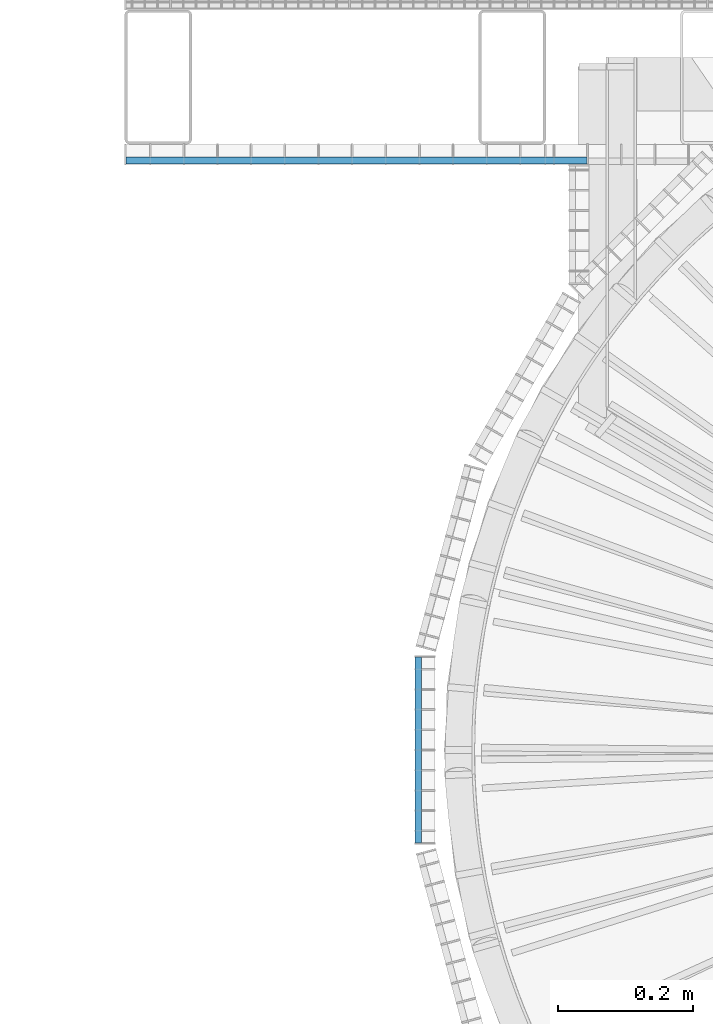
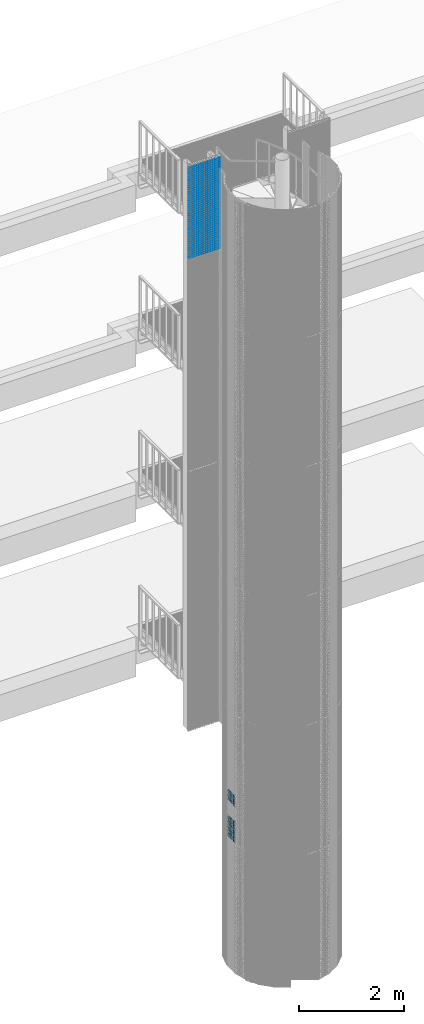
# One storey, part 212 of 1183: 69 beams, 2 elements without a shape of their own.
"""IFC2X3 building model written with IfcOpenShell, lengths in millimetres."""

from ifc_helpers import new_model, si_unit, frame, origin_with_axes, origin_2d_with_axis, place, context, subcontext, project, spatial, rectangle, extrude, material, type_object, element, aggregate, save


model = new_model("IFC2X3")

# Units and contexts
model_context = context("Model", 3, precision=1e-05, world=origin_with_axes())
body_context = subcontext(model_context, "Body", "Model", "MODEL_VIEW")
ifc_project = project(units=[si_unit("LENGTHUNIT", "METRE", prefix="MILLI"), si_unit("AREAUNIT", "SQUARE_METRE"), si_unit("VOLUMEUNIT", "CUBIC_METRE"), si_unit("MASSUNIT", "GRAM", prefix="KILO"), si_unit("TIMEUNIT", "SECOND"), si_unit("PLANEANGLEUNIT", "RADIAN"), si_unit("SOLIDANGLEUNIT", "STERADIAN"), si_unit("THERMODYNAMICTEMPERATUREUNIT", "DEGREE_CELSIUS"), si_unit("LUMINOUSINTENSITYUNIT", "LUMEN")], contexts=[model_context])

# Site, building, storey
site_placement = place(None, origin_with_axes())
site = spatial("IfcSite", under=ifc_project, at=site_placement, Name="Undefined", CompositionType="ELEMENT")
building_placement = place(site_placement, origin_with_axes())
building = spatial("IfcBuilding", under=site, at=building_placement, Name="Undefined", CompositionType="ELEMENT")
storey_placement = place(building_placement, origin_with_axes())
storey = spatial("IfcBuildingStorey", under=building, at=storey_placement, Name="Undefined", CompositionType="ELEMENT", Elevation=0.0)

# Assembly, beams
assembly_1_placement = place(storey_placement, origin_with_axes())
assembly_1 = element("IfcElementAssembly", 1, at=assembly_1_placement, inside=storey, Name="BORDURE", AssemblyPlace="NOTDEFINED", PredefinedType="NOTDEFINED")
ifc_material = material(Name="STEEL/S235JR")
beam_type = type_object("IfcBeamType", Name="PL2*10", PredefinedType="NOTDEFINED")
beam_1_placement = place(assembly_1_placement, frame((-1113.47999999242, 137.996003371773, 3510.0), z_axis=(-1.0, 0.0, 0.0), x_axis=(0.0, -1.0, 0.0)))
beam_1 = element("IfcBeam", 2, at=beam_1_placement, type_object=beam_type, material=ifc_material, Name="ENTRETOISE", context=body_context, shape_type="SweptSolid", body=[
    extrude(rectangle(XDim=2.0, YDim=10.0, at=origin_2d_with_axis()), frame((275.999999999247, 9.09494701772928e-13, 1.53210777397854e-14), z_axis=(-1.0, 0.0, 0.0), x_axis=(0.0, -1.0, 0.0)), (0.0, 0.0, 1.0), 276.0),
])
beam_2_placement = place(assembly_1_placement, frame((-1113.47999999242, 137.996003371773, 3480.0), z_axis=(-1.0, 0.0, 0.0), x_axis=(0.0, -1.0, 0.0)))
beam_2 = element("IfcBeam", 3, at=beam_2_placement, type_object=beam_type, material=ifc_material, Name="ENTRETOISE", context=body_context, shape_type="SweptSolid", body=[
    extrude(rectangle(XDim=2.0, YDim=10.0, at=origin_2d_with_axis()), frame((275.999999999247, 9.09494701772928e-13, 1.53210777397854e-14), z_axis=(-1.0, 0.0, 0.0), x_axis=(0.0, -1.0, 0.0)), (0.0, 0.0, 1.0), 276.0),
])
beam_3_placement = place(assembly_1_placement, frame((-1113.47999999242, 137.996003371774, 3870.0), z_axis=(-1.0, 0.0, 0.0), x_axis=(0.0, -1.0, 0.0)))
beam_3 = element("IfcBeam", 4, at=beam_3_placement, type_object=beam_type, material=ifc_material, Name="ENTRETOISE", context=body_context, shape_type="SweptSolid", body=[
    extrude(rectangle(XDim=2.0, YDim=10.0, at=origin_2d_with_axis()), frame((275.999999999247, 9.09494701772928e-13, 1.53210777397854e-14), z_axis=(-1.0, 0.0, 0.0), x_axis=(0.0, -1.0, 0.0)), (0.0, 0.0, 1.0), 276.0),
])
beam_4_placement = place(assembly_1_placement, frame((-1113.47999999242, 137.996003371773, 3450.0), z_axis=(-1.0, 0.0, 0.0), x_axis=(0.0, -1.0, 0.0)))
beam_4 = element("IfcBeam", 5, at=beam_4_placement, type_object=beam_type, material=ifc_material, Name="ENTRETOISE", context=body_context, shape_type="SweptSolid", body=[
    extrude(rectangle(XDim=2.0, YDim=10.0, at=origin_2d_with_axis()), frame((275.999999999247, 9.09494701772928e-13, 1.53210777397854e-14), z_axis=(-1.0, 0.0, 0.0), x_axis=(0.0, -1.0, 0.0)), (0.0, 0.0, 1.0), 276.0),
])
beam_5_placement = place(assembly_1_placement, frame((-1113.47999999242, 137.996003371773, 3420.0), z_axis=(-1.0, 0.0, 0.0), x_axis=(0.0, -1.0, 0.0)))
beam_5 = element("IfcBeam", 6, at=beam_5_placement, type_object=beam_type, material=ifc_material, Name="ENTRETOISE", context=body_context, shape_type="SweptSolid", body=[
    extrude(rectangle(XDim=2.0, YDim=10.0, at=origin_2d_with_axis()), frame((275.999999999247, 9.09494701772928e-13, 1.53210777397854e-14), z_axis=(-1.0, 0.0, 0.0), x_axis=(0.0, -1.0, 0.0)), (0.0, 0.0, 1.0), 276.0),
])
beam_6_placement = place(assembly_1_placement, frame((-1113.47999999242, 137.996003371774, 3900.0), z_axis=(-1.0, 0.0, 0.0), x_axis=(0.0, -1.0, 0.0)))
beam_6 = element("IfcBeam", 7, at=beam_6_placement, type_object=beam_type, material=ifc_material, Name="ENTRETOISE", context=body_context, shape_type="SweptSolid", body=[
    extrude(rectangle(XDim=2.0, YDim=10.0, at=origin_2d_with_axis()), frame((275.999999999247, 9.09494701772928e-13, 1.53210777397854e-14), z_axis=(-1.0, 0.0, 0.0), x_axis=(0.0, -1.0, 0.0)), (0.0, 0.0, 1.0), 276.0),
])
beam_7_placement = place(assembly_1_placement, frame((-1113.47999999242, 137.996003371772, 3390.0), z_axis=(-1.0, 0.0, 0.0), x_axis=(0.0, -1.0, 0.0)))
beam_7 = element("IfcBeam", 8, at=beam_7_placement, type_object=beam_type, material=ifc_material, Name="ENTRETOISE", context=body_context, shape_type="SweptSolid", body=[
    extrude(rectangle(XDim=2.0, YDim=10.0, at=origin_2d_with_axis()), frame((275.999999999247, 9.09494701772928e-13, 1.53210777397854e-14), z_axis=(-1.0, 0.0, 0.0), x_axis=(0.0, -1.0, 0.0)), (0.0, 0.0, 1.0), 276.0),
])
beam_8_placement = place(assembly_1_placement, frame((-1113.47999999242, 137.996003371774, 3930.0), z_axis=(-1.0, 0.0, 0.0), x_axis=(0.0, -1.0, 0.0)))
beam_8 = element("IfcBeam", 9, at=beam_8_placement, type_object=beam_type, material=ifc_material, Name="ENTRETOISE", context=body_context, shape_type="SweptSolid", body=[
    extrude(rectangle(XDim=2.0, YDim=10.0, at=origin_2d_with_axis()), frame((275.999999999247, 9.09494701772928e-13, 1.53210777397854e-14), z_axis=(-1.0, 0.0, 0.0), x_axis=(0.0, -1.0, 0.0)), (0.0, 0.0, 1.0), 276.0),
])
beam_9_placement = place(assembly_1_placement, frame((-1113.47999999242, 137.996003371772, 3360.0), z_axis=(-1.0, 0.0, 0.0), x_axis=(0.0, -1.0, 0.0)))
beam_9 = element("IfcBeam", 10, at=beam_9_placement, type_object=beam_type, material=ifc_material, Name="ENTRETOISE", context=body_context, shape_type="SweptSolid", body=[
    extrude(rectangle(XDim=2.0, YDim=10.0, at=origin_2d_with_axis()), frame((275.999999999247, 9.09494701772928e-13, 1.53210777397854e-14), z_axis=(-1.0, 0.0, 0.0), x_axis=(0.0, -1.0, 0.0)), (0.0, 0.0, 1.0), 276.0),
])
beam_10_placement = place(assembly_1_placement, frame((-1113.47999999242, 137.996003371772, 3330.0), z_axis=(-1.0, 0.0, 0.0), x_axis=(0.0, -1.0, 0.0)))
beam_10 = element("IfcBeam", 11, at=beam_10_placement, type_object=beam_type, material=ifc_material, Name="ENTRETOISE", context=body_context, shape_type="SweptSolid", body=[
    extrude(rectangle(XDim=2.0, YDim=10.0, at=origin_2d_with_axis()), frame((275.999999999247, 9.09494701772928e-13, 1.53210777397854e-14), z_axis=(-1.0, 0.0, 0.0), x_axis=(0.0, -1.0, 0.0)), (0.0, 0.0, 1.0), 276.0),
])
beam_11_placement = place(assembly_1_placement, frame((-1113.47999999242, 137.996003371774, 3960.0), z_axis=(-1.0, 0.0, 0.0), x_axis=(0.0, -1.0, 0.0)))
beam_11 = element("IfcBeam", 12, at=beam_11_placement, type_object=beam_type, material=ifc_material, Name="ENTRETOISE", context=body_context, shape_type="SweptSolid", body=[
    extrude(rectangle(XDim=2.0, YDim=10.0, at=origin_2d_with_axis()), frame((275.999999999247, 9.09494701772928e-13, 1.53210777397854e-14), z_axis=(-1.0, 0.0, 0.0), x_axis=(0.0, -1.0, 0.0)), (0.0, 0.0, 1.0), 276.0),
])
beam_12_placement = place(assembly_1_placement, frame((-1113.47999999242, 137.996003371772, 3300.0), z_axis=(-1.0, 0.0, 0.0), x_axis=(0.0, -1.0, 0.0)))
beam_12 = element("IfcBeam", 13, at=beam_12_placement, type_object=beam_type, material=ifc_material, Name="ENTRETOISE", context=body_context, shape_type="SweptSolid", body=[
    extrude(rectangle(XDim=2.0, YDim=10.0, at=origin_2d_with_axis()), frame((275.999999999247, 9.09494701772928e-13, 1.53210777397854e-14), z_axis=(-1.0, 0.0, 0.0), x_axis=(0.0, -1.0, 0.0)), (0.0, 0.0, 1.0), 276.0),
])
beam_13_placement = place(assembly_1_placement, frame((-1113.47999999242, 137.996003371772, 3270.0), z_axis=(-1.0, 0.0, 0.0), x_axis=(0.0, -1.0, 0.0)))
beam_13 = element("IfcBeam", 14, at=beam_13_placement, type_object=beam_type, material=ifc_material, Name="ENTRETOISE", context=body_context, shape_type="SweptSolid", body=[
    extrude(rectangle(XDim=2.0, YDim=10.0, at=origin_2d_with_axis()), frame((275.999999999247, 9.09494701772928e-13, 1.53210777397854e-14), z_axis=(-1.0, 0.0, 0.0), x_axis=(0.0, -1.0, 0.0)), (0.0, 0.0, 1.0), 276.0),
])
beam_14_placement = place(assembly_1_placement, frame((-1113.47999999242, 137.996003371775, 3990.0), z_axis=(-1.0, 0.0, 0.0), x_axis=(0.0, -1.0, 0.0)))
beam_14 = element("IfcBeam", 15, at=beam_14_placement, type_object=beam_type, material=ifc_material, Name="ENTRETOISE", context=body_context, shape_type="SweptSolid", body=[
    extrude(rectangle(XDim=2.0, YDim=10.0, at=origin_2d_with_axis()), frame((275.999999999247, 9.09494701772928e-13, 1.53210777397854e-14), z_axis=(-1.0, 0.0, 0.0), x_axis=(0.0, -1.0, 0.0)), (0.0, 0.0, 1.0), 276.0),
])
beam_15_placement = place(assembly_1_placement, frame((-1113.47999999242, 137.996003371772, 3240.0), z_axis=(-1.0, 0.0, 0.0), x_axis=(0.0, -1.0, 0.0)))
beam_15 = element("IfcBeam", 16, at=beam_15_placement, type_object=beam_type, material=ifc_material, Name="ENTRETOISE", context=body_context, shape_type="SweptSolid", body=[
    extrude(rectangle(XDim=2.0, YDim=10.0, at=origin_2d_with_axis()), frame((275.999999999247, 9.09494701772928e-13, 1.53210777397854e-14), z_axis=(-1.0, 0.0, 0.0), x_axis=(0.0, -1.0, 0.0)), (0.0, 0.0, 1.0), 276.0),
])
beam_16_placement = place(assembly_1_placement, frame((-1113.47999999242, 137.996003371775, 4020.0), z_axis=(-1.0, 0.0, 0.0), x_axis=(0.0, -1.0, 0.0)))
beam_16 = element("IfcBeam", 17, at=beam_16_placement, type_object=beam_type, material=ifc_material, Name="ENTRETOISE", context=body_context, shape_type="SweptSolid", body=[
    extrude(rectangle(XDim=2.0, YDim=10.0, at=origin_2d_with_axis()), frame((275.999999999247, 9.09494701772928e-13, 1.53210777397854e-14), z_axis=(-1.0, 0.0, 0.0), x_axis=(0.0, -1.0, 0.0)), (0.0, 0.0, 1.0), 276.0),
])
beam_17_placement = place(assembly_1_placement, frame((-1113.47999999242, 137.996003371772, 3210.0), z_axis=(-1.0, 0.0, 0.0), x_axis=(0.0, -1.0, 0.0)))
beam_17 = element("IfcBeam", 18, at=beam_17_placement, type_object=beam_type, material=ifc_material, Name="ENTRETOISE", context=body_context, shape_type="SweptSolid", body=[
    extrude(rectangle(XDim=2.0, YDim=10.0, at=origin_2d_with_axis()), frame((275.999999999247, 9.09494701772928e-13, 1.53210777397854e-14), z_axis=(-1.0, 0.0, 0.0), x_axis=(0.0, -1.0, 0.0)), (0.0, 0.0, 1.0), 276.0),
])
beam_18_placement = place(assembly_1_placement, frame((-1113.47999999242, 137.996003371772, 3180.0), z_axis=(-1.0, 0.0, 0.0), x_axis=(0.0, -1.0, 0.0)))
beam_18 = element("IfcBeam", 19, at=beam_18_placement, type_object=beam_type, material=ifc_material, Name="ENTRETOISE", context=body_context, shape_type="SweptSolid", body=[
    extrude(rectangle(XDim=2.0, YDim=10.0, at=origin_2d_with_axis()), frame((275.999999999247, 9.09494701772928e-13, 1.53210777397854e-14), z_axis=(-1.0, 0.0, 0.0), x_axis=(0.0, -1.0, 0.0)), (0.0, 0.0, 1.0), 276.0),
])
beam_19_placement = place(assembly_1_placement, frame((-1113.47999999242, 137.996003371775, 4050.0), z_axis=(-1.0, 0.0, 0.0), x_axis=(0.0, -1.0, 0.0)))
beam_19 = element("IfcBeam", 20, at=beam_19_placement, type_object=beam_type, material=ifc_material, Name="ENTRETOISE", context=body_context, shape_type="SweptSolid", body=[
    extrude(rectangle(XDim=2.0, YDim=10.0, at=origin_2d_with_axis()), frame((275.999999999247, 9.09494701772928e-13, 1.53210777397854e-14), z_axis=(-1.0, 0.0, 0.0), x_axis=(0.0, -1.0, 0.0)), (0.0, 0.0, 1.0), 276.0),
])
beam_20_placement = place(assembly_1_placement, frame((-1113.47999999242, 137.996003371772, 3150.0), z_axis=(-1.0, 0.0, 0.0), x_axis=(0.0, -1.0, 0.0)))
beam_20 = element("IfcBeam", 21, at=beam_20_placement, type_object=beam_type, material=ifc_material, Name="ENTRETOISE", context=body_context, shape_type="SweptSolid", body=[
    extrude(rectangle(XDim=2.0, YDim=10.0, at=origin_2d_with_axis()), frame((275.999999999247, 9.09494701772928e-13, 1.53210777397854e-14), z_axis=(-1.0, 0.0, 0.0), x_axis=(0.0, -1.0, 0.0)), (0.0, 0.0, 1.0), 276.0),
])
beam_21_placement = place(assembly_1_placement, frame((-1113.47999999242, 137.996003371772, 3120.0), z_axis=(-1.0, 0.0, 0.0), x_axis=(0.0, -1.0, 0.0)))
beam_21 = element("IfcBeam", 22, at=beam_21_placement, type_object=beam_type, material=ifc_material, Name="ENTRETOISE", context=body_context, shape_type="SweptSolid", body=[
    extrude(rectangle(XDim=2.0, YDim=10.0, at=origin_2d_with_axis()), frame((275.999999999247, 9.09494701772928e-13, 1.53210777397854e-14), z_axis=(-1.0, 0.0, 0.0), x_axis=(0.0, -1.0, 0.0)), (0.0, 0.0, 1.0), 276.0),
])
beam_22_placement = place(assembly_1_placement, frame((-1113.47999999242, 137.996003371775, 4080.0), z_axis=(-1.0, 0.0, 0.0), x_axis=(0.0, -1.0, 0.0)))
beam_22 = element("IfcBeam", 23, at=beam_22_placement, type_object=beam_type, material=ifc_material, Name="ENTRETOISE", context=body_context, shape_type="SweptSolid", body=[
    extrude(rectangle(XDim=2.0, YDim=10.0, at=origin_2d_with_axis()), frame((275.999999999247, 9.09494701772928e-13, 1.53210777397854e-14), z_axis=(-1.0, 0.0, 0.0), x_axis=(0.0, -1.0, 0.0)), (0.0, 0.0, 1.0), 276.0),
])
beam_23_placement = place(assembly_1_placement, frame((-1113.47999999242, 137.996003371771, 3090.0), z_axis=(-1.0, 0.0, 0.0), x_axis=(0.0, -1.0, 0.0)))
beam_23 = element("IfcBeam", 24, at=beam_23_placement, type_object=beam_type, material=ifc_material, Name="ENTRETOISE", context=body_context, shape_type="SweptSolid", body=[
    extrude(rectangle(XDim=2.0, YDim=10.0, at=origin_2d_with_axis()), frame((275.999999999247, 9.09494701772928e-13, 1.53210777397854e-14), z_axis=(-1.0, 0.0, 0.0), x_axis=(0.0, -1.0, 0.0)), (0.0, 0.0, 1.0), 276.0),
])
beam_24_placement = place(assembly_1_placement, frame((-1113.47999999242, 137.996003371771, 3060.0), z_axis=(-1.0, 0.0, 0.0), x_axis=(0.0, -1.0, 0.0)))
beam_24 = element("IfcBeam", 25, at=beam_24_placement, type_object=beam_type, material=ifc_material, Name="ENTRETOISE", context=body_context, shape_type="SweptSolid", body=[
    extrude(rectangle(XDim=2.0, YDim=10.0, at=origin_2d_with_axis()), frame((275.999999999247, 9.09494701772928e-13, 1.53210777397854e-14), z_axis=(-1.0, 0.0, 0.0), x_axis=(0.0, -1.0, 0.0)), (0.0, 0.0, 1.0), 276.0),
])
beam_25_placement = place(assembly_1_placement, frame((-1113.47999999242, 137.996003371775, 4110.0), z_axis=(-1.0, 0.0, 0.0), x_axis=(0.0, -1.0, 0.0)))
beam_25 = element("IfcBeam", 26, at=beam_25_placement, type_object=beam_type, material=ifc_material, Name="ENTRETOISE", context=body_context, shape_type="SweptSolid", body=[
    extrude(rectangle(XDim=2.0, YDim=10.0, at=origin_2d_with_axis()), frame((275.999999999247, 9.09494701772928e-13, 1.53210777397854e-14), z_axis=(-1.0, 0.0, 0.0), x_axis=(0.0, -1.0, 0.0)), (0.0, 0.0, 1.0), 276.0),
])
beam_26_placement = place(assembly_1_placement, frame((-1113.47999999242, 137.99600337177, 3030.0), z_axis=(-1.0, 0.0, 0.0), x_axis=(0.0, -1.0, 0.0)))
beam_26 = element("IfcBeam", 27, at=beam_26_placement, type_object=beam_type, material=ifc_material, Name="ENTRETOISE", context=body_context, shape_type="SweptSolid", body=[
    extrude(rectangle(XDim=2.0, YDim=10.0, at=origin_2d_with_axis()), frame((275.999999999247, 9.09494701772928e-13, 1.53210777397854e-14), z_axis=(-1.0, 0.0, 0.0), x_axis=(0.0, -1.0, 0.0)), (0.0, 0.0, 1.0), 276.0),
])
aggregate(assembly_1, [beam_1, beam_2, beam_3, beam_4, beam_5, beam_6, beam_7, beam_8, beam_9, beam_10, beam_11, beam_12, beam_13, beam_14, beam_15, beam_16, beam_17, beam_18, beam_19, beam_20, beam_21, beam_22, beam_23, beam_24, beam_25, beam_26])

assembly_2_placement = place(storey_placement, origin_with_axes())
assembly_2 = element("IfcElementAssembly", 28, at=assembly_2_placement, inside=storey, Name="BORDURE", AssemblyPlace="NOTDEFINED", PredefinedType="NOTDEFINED")
beam_27_placement = place(assembly_2_placement, frame((-1547.92041016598, 875.994689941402, 18239.998), z_axis=(0.0, -1.0, 0.0), x_axis=(1.0, 0.0, 0.0)))
beam_27 = element("IfcBeam", 29, at=beam_27_placement, type_object=beam_type, material=ifc_material, Name="ENTRETOISE", context=body_context, shape_type="SweptSolid", body=[
    extrude(rectangle(XDim=2.0, YDim=10.0, at=origin_2d_with_axis()), frame((685.0, 0.0, 0.0), z_axis=(-1.0, 0.0, 0.0), x_axis=(0.0, -1.0, 0.0)), (0.0, 0.0, 1.0), 685.0),
])
beam_28_placement = place(assembly_2_placement, frame((-1547.92041016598, 875.994689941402, 18189.998), z_axis=(0.0, -1.0, 0.0), x_axis=(1.0, 0.0, 0.0)))
beam_28 = element("IfcBeam", 30, at=beam_28_placement, type_object=beam_type, material=ifc_material, Name="ENTRETOISE", context=body_context, shape_type="SweptSolid", body=[
    extrude(rectangle(XDim=2.0, YDim=10.0, at=origin_2d_with_axis()), frame((685.0, 0.0, 0.0), z_axis=(-1.0, 0.0, 0.0), x_axis=(0.0, -1.0, 0.0)), (0.0, 0.0, 1.0), 685.0),
])
beam_29_placement = place(assembly_2_placement, frame((-1547.92041016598, 875.994689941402, 18139.998), z_axis=(0.0, -1.0, 0.0), x_axis=(1.0, 0.0, 0.0)))
beam_29 = element("IfcBeam", 31, at=beam_29_placement, type_object=beam_type, material=ifc_material, Name="ENTRETOISE", context=body_context, shape_type="SweptSolid", body=[
    extrude(rectangle(XDim=2.0, YDim=10.0, at=origin_2d_with_axis()), frame((685.0, 0.0, 0.0), z_axis=(-1.0, 0.0, 0.0), x_axis=(0.0, -1.0, 0.0)), (0.0, 0.0, 1.0), 685.0),
])
beam_30_placement = place(assembly_2_placement, frame((-1547.92041016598, 875.994689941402, 18089.998), z_axis=(0.0, -1.0, 0.0), x_axis=(1.0, 0.0, 0.0)))
beam_30 = element("IfcBeam", 32, at=beam_30_placement, type_object=beam_type, material=ifc_material, Name="ENTRETOISE", context=body_context, shape_type="SweptSolid", body=[
    extrude(rectangle(XDim=2.0, YDim=10.0, at=origin_2d_with_axis()), frame((685.0, 0.0, 0.0), z_axis=(-1.0, 0.0, 0.0), x_axis=(0.0, -1.0, 0.0)), (0.0, 0.0, 1.0), 685.0),
])
beam_31_placement = place(assembly_2_placement, frame((-1547.92041016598, 875.994689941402, 18039.998), z_axis=(0.0, -1.0, 0.0), x_axis=(1.0, 0.0, 0.0)))
beam_31 = element("IfcBeam", 33, at=beam_31_placement, type_object=beam_type, material=ifc_material, Name="ENTRETOISE", context=body_context, shape_type="SweptSolid", body=[
    extrude(rectangle(XDim=2.0, YDim=10.0, at=origin_2d_with_axis()), frame((685.0, 0.0, 0.0), z_axis=(-1.0, 0.0, 0.0), x_axis=(0.0, -1.0, 0.0)), (0.0, 0.0, 1.0), 685.0),
])
beam_32_placement = place(assembly_2_placement, frame((-1547.92041016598, 875.994689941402, 17989.998), z_axis=(0.0, -1.0, 0.0), x_axis=(1.0, 0.0, 0.0)))
beam_32 = element("IfcBeam", 34, at=beam_32_placement, type_object=beam_type, material=ifc_material, Name="ENTRETOISE", context=body_context, shape_type="SweptSolid", body=[
    extrude(rectangle(XDim=2.0, YDim=10.0, at=origin_2d_with_axis()), frame((685.0, 0.0, 0.0), z_axis=(-1.0, 0.0, 0.0), x_axis=(0.0, -1.0, 0.0)), (0.0, 0.0, 1.0), 685.0),
])
beam_33_placement = place(assembly_2_placement, frame((-1547.92041016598, 875.994689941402, 17939.998), z_axis=(0.0, -1.0, 0.0), x_axis=(1.0, 0.0, 0.0)))
beam_33 = element("IfcBeam", 35, at=beam_33_placement, type_object=beam_type, material=ifc_material, Name="ENTRETOISE", context=body_context, shape_type="SweptSolid", body=[
    extrude(rectangle(XDim=2.0, YDim=10.0, at=origin_2d_with_axis()), frame((685.0, 0.0, 0.0), z_axis=(-1.0, 0.0, 0.0), x_axis=(0.0, -1.0, 0.0)), (0.0, 0.0, 1.0), 685.0),
])
beam_34_placement = place(assembly_2_placement, frame((-1547.92041016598, 875.994689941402, 17889.998), z_axis=(0.0, -1.0, 0.0), x_axis=(1.0, 0.0, 0.0)))
beam_34 = element("IfcBeam", 36, at=beam_34_placement, type_object=beam_type, material=ifc_material, Name="ENTRETOISE", context=body_context, shape_type="SweptSolid", body=[
    extrude(rectangle(XDim=2.0, YDim=10.0, at=origin_2d_with_axis()), frame((685.0, 0.0, 0.0), z_axis=(-1.0, 0.0, 0.0), x_axis=(0.0, -1.0, 0.0)), (0.0, 0.0, 1.0), 685.0),
])
beam_35_placement = place(assembly_2_placement, frame((-1547.92041016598, 875.994689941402, 17839.998), z_axis=(0.0, -1.0, 0.0), x_axis=(1.0, 0.0, 0.0)))
beam_35 = element("IfcBeam", 37, at=beam_35_placement, type_object=beam_type, material=ifc_material, Name="ENTRETOISE", context=body_context, shape_type="SweptSolid", body=[
    extrude(rectangle(XDim=2.0, YDim=10.0, at=origin_2d_with_axis()), frame((685.0, 0.0, 0.0), z_axis=(-1.0, 0.0, 0.0), x_axis=(0.0, -1.0, 0.0)), (0.0, 0.0, 1.0), 685.0),
])
beam_36_placement = place(assembly_2_placement, frame((-1547.92041016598, 875.994689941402, 17789.998), z_axis=(0.0, -1.0, 0.0), x_axis=(1.0, 0.0, 0.0)))
beam_36 = element("IfcBeam", 38, at=beam_36_placement, type_object=beam_type, material=ifc_material, Name="ENTRETOISE", context=body_context, shape_type="SweptSolid", body=[
    extrude(rectangle(XDim=2.0, YDim=10.0, at=origin_2d_with_axis()), frame((685.0, 0.0, 0.0), z_axis=(-1.0, 0.0, 0.0), x_axis=(0.0, -1.0, 0.0)), (0.0, 0.0, 1.0), 685.0),
])
beam_37_placement = place(assembly_2_placement, frame((-1547.92041016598, 875.994689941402, 17739.998), z_axis=(0.0, -1.0, 0.0), x_axis=(1.0, 0.0, 0.0)))
beam_37 = element("IfcBeam", 39, at=beam_37_placement, type_object=beam_type, material=ifc_material, Name="ENTRETOISE", context=body_context, shape_type="SweptSolid", body=[
    extrude(rectangle(XDim=2.0, YDim=10.0, at=origin_2d_with_axis()), frame((685.0, 0.0, 0.0), z_axis=(-1.0, 0.0, 0.0), x_axis=(0.0, -1.0, 0.0)), (0.0, 0.0, 1.0), 685.0),
])
beam_38_placement = place(assembly_2_placement, frame((-1547.92041016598, 875.994689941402, 17689.998), z_axis=(0.0, -1.0, 0.0), x_axis=(1.0, 0.0, 0.0)))
beam_38 = element("IfcBeam", 40, at=beam_38_placement, type_object=beam_type, material=ifc_material, Name="ENTRETOISE", context=body_context, shape_type="SweptSolid", body=[
    extrude(rectangle(XDim=2.0, YDim=10.0, at=origin_2d_with_axis()), frame((685.0, 0.0, 0.0), z_axis=(-1.0, 0.0, 0.0), x_axis=(0.0, -1.0, 0.0)), (0.0, 0.0, 1.0), 685.0),
])
beam_39_placement = place(assembly_2_placement, frame((-1547.92041016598, 875.994689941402, 17639.998), z_axis=(0.0, -1.0, 0.0), x_axis=(1.0, 0.0, 0.0)))
beam_39 = element("IfcBeam", 41, at=beam_39_placement, type_object=beam_type, material=ifc_material, Name="ENTRETOISE", context=body_context, shape_type="SweptSolid", body=[
    extrude(rectangle(XDim=2.0, YDim=10.0, at=origin_2d_with_axis()), frame((685.0, 0.0, 0.0), z_axis=(-1.0, 0.0, 0.0), x_axis=(0.0, -1.0, 0.0)), (0.0, 0.0, 1.0), 685.0),
])
beam_40_placement = place(assembly_2_placement, frame((-1547.92041016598, 875.994689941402, 17589.998), z_axis=(0.0, -1.0, 0.0), x_axis=(1.0, 0.0, 0.0)))
beam_40 = element("IfcBeam", 42, at=beam_40_placement, type_object=beam_type, material=ifc_material, Name="ENTRETOISE", context=body_context, shape_type="SweptSolid", body=[
    extrude(rectangle(XDim=2.0, YDim=10.0, at=origin_2d_with_axis()), frame((685.0, 0.0, 0.0), z_axis=(-1.0, 0.0, 0.0), x_axis=(0.0, -1.0, 0.0)), (0.0, 0.0, 1.0), 685.0),
])
beam_41_placement = place(assembly_2_placement, frame((-1547.92041016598, 875.994689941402, 17539.998), z_axis=(0.0, -1.0, 0.0), x_axis=(1.0, 0.0, 0.0)))
beam_41 = element("IfcBeam", 43, at=beam_41_placement, type_object=beam_type, material=ifc_material, Name="ENTRETOISE", context=body_context, shape_type="SweptSolid", body=[
    extrude(rectangle(XDim=2.0, YDim=10.0, at=origin_2d_with_axis()), frame((685.0, 0.0, 0.0), z_axis=(-1.0, 0.0, 0.0), x_axis=(0.0, -1.0, 0.0)), (0.0, 0.0, 1.0), 685.0),
])
beam_42_placement = place(assembly_2_placement, frame((-1547.92041016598, 875.994689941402, 17489.998), z_axis=(0.0, -1.0, 0.0), x_axis=(1.0, 0.0, 0.0)))
beam_42 = element("IfcBeam", 44, at=beam_42_placement, type_object=beam_type, material=ifc_material, Name="ENTRETOISE", context=body_context, shape_type="SweptSolid", body=[
    extrude(rectangle(XDim=2.0, YDim=10.0, at=origin_2d_with_axis()), frame((685.0, 0.0, 0.0), z_axis=(-1.0, 0.0, 0.0), x_axis=(0.0, -1.0, 0.0)), (0.0, 0.0, 1.0), 685.0),
])
beam_43_placement = place(assembly_2_placement, frame((-1547.92041016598, 875.994689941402, 17439.998), z_axis=(0.0, -1.0, 0.0), x_axis=(1.0, 0.0, 0.0)))
beam_43 = element("IfcBeam", 45, at=beam_43_placement, type_object=beam_type, material=ifc_material, Name="ENTRETOISE", context=body_context, shape_type="SweptSolid", body=[
    extrude(rectangle(XDim=2.0, YDim=10.0, at=origin_2d_with_axis()), frame((685.0, 0.0, 0.0), z_axis=(-1.0, 0.0, 0.0), x_axis=(0.0, -1.0, 0.0)), (0.0, 0.0, 1.0), 685.0),
])
beam_44_placement = place(assembly_2_placement, frame((-1547.92041016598, 875.994689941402, 17389.998), z_axis=(0.0, -1.0, 0.0), x_axis=(1.0, 0.0, 0.0)))
beam_44 = element("IfcBeam", 46, at=beam_44_placement, type_object=beam_type, material=ifc_material, Name="ENTRETOISE", context=body_context, shape_type="SweptSolid", body=[
    extrude(rectangle(XDim=2.0, YDim=10.0, at=origin_2d_with_axis()), frame((685.0, 0.0, 0.0), z_axis=(-1.0, 0.0, 0.0), x_axis=(0.0, -1.0, 0.0)), (0.0, 0.0, 1.0), 685.0),
])
beam_45_placement = place(assembly_2_placement, frame((-1547.92041016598, 875.994689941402, 17339.998), z_axis=(0.0, -1.0, 0.0), x_axis=(1.0, 0.0, 0.0)))
beam_45 = element("IfcBeam", 47, at=beam_45_placement, type_object=beam_type, material=ifc_material, Name="ENTRETOISE", context=body_context, shape_type="SweptSolid", body=[
    extrude(rectangle(XDim=2.0, YDim=10.0, at=origin_2d_with_axis()), frame((685.0, 0.0, 0.0), z_axis=(-1.0, 0.0, 0.0), x_axis=(0.0, -1.0, 0.0)), (0.0, 0.0, 1.0), 685.0),
])
beam_46_placement = place(assembly_2_placement, frame((-1547.92041016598, 875.994689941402, 17289.998), z_axis=(0.0, -1.0, 0.0), x_axis=(1.0, 0.0, 0.0)))
beam_46 = element("IfcBeam", 48, at=beam_46_placement, type_object=beam_type, material=ifc_material, Name="ENTRETOISE", context=body_context, shape_type="SweptSolid", body=[
    extrude(rectangle(XDim=2.0, YDim=10.0, at=origin_2d_with_axis()), frame((685.0, 0.0, 0.0), z_axis=(-1.0, 0.0, 0.0), x_axis=(0.0, -1.0, 0.0)), (0.0, 0.0, 1.0), 685.0),
])
beam_47_placement = place(assembly_2_placement, frame((-1547.92041016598, 875.994689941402, 17239.998), z_axis=(0.0, -1.0, 0.0), x_axis=(1.0, 0.0, 0.0)))
beam_47 = element("IfcBeam", 49, at=beam_47_placement, type_object=beam_type, material=ifc_material, Name="ENTRETOISE", context=body_context, shape_type="SweptSolid", body=[
    extrude(rectangle(XDim=2.0, YDim=10.0, at=origin_2d_with_axis()), frame((685.0, 0.0, 0.0), z_axis=(-1.0, 0.0, 0.0), x_axis=(0.0, -1.0, 0.0)), (0.0, 0.0, 1.0), 685.0),
])
beam_48_placement = place(assembly_2_placement, frame((-1547.92041016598, 875.994689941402, 17189.998), z_axis=(0.0, -1.0, 0.0), x_axis=(1.0, 0.0, 0.0)))
beam_48 = element("IfcBeam", 50, at=beam_48_placement, type_object=beam_type, material=ifc_material, Name="ENTRETOISE", context=body_context, shape_type="SweptSolid", body=[
    extrude(rectangle(XDim=2.0, YDim=10.0, at=origin_2d_with_axis()), frame((685.0, 0.0, 0.0), z_axis=(-1.0, 0.0, 0.0), x_axis=(0.0, -1.0, 0.0)), (0.0, 0.0, 1.0), 685.0),
])
beam_49_placement = place(assembly_2_placement, frame((-1547.92041016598, 875.994689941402, 17139.998), z_axis=(0.0, -1.0, 0.0), x_axis=(1.0, 0.0, 0.0)))
beam_49 = element("IfcBeam", 51, at=beam_49_placement, type_object=beam_type, material=ifc_material, Name="ENTRETOISE", context=body_context, shape_type="SweptSolid", body=[
    extrude(rectangle(XDim=2.0, YDim=10.0, at=origin_2d_with_axis()), frame((685.0, 0.0, 0.0), z_axis=(-1.0, 0.0, 0.0), x_axis=(0.0, -1.0, 0.0)), (0.0, 0.0, 1.0), 685.0),
])
beam_50_placement = place(assembly_2_placement, frame((-1547.92041016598, 875.994689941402, 17089.998), z_axis=(0.0, -1.0, 0.0), x_axis=(1.0, 0.0, 0.0)))
beam_50 = element("IfcBeam", 52, at=beam_50_placement, type_object=beam_type, material=ifc_material, Name="ENTRETOISE", context=body_context, shape_type="SweptSolid", body=[
    extrude(rectangle(XDim=2.0, YDim=10.0, at=origin_2d_with_axis()), frame((685.0, 0.0, 0.0), z_axis=(-1.0, 0.0, 0.0), x_axis=(0.0, -1.0, 0.0)), (0.0, 0.0, 1.0), 685.0),
])
beam_51_placement = place(assembly_2_placement, frame((-1547.92041016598, 875.994689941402, 17039.998), z_axis=(0.0, -1.0, 0.0), x_axis=(1.0, 0.0, 0.0)))
beam_51 = element("IfcBeam", 53, at=beam_51_placement, type_object=beam_type, material=ifc_material, Name="ENTRETOISE", context=body_context, shape_type="SweptSolid", body=[
    extrude(rectangle(XDim=2.0, YDim=10.0, at=origin_2d_with_axis()), frame((685.0, 0.0, 0.0), z_axis=(-1.0, 0.0, 0.0), x_axis=(0.0, -1.0, 0.0)), (0.0, 0.0, 1.0), 685.0),
])
beam_52_placement = place(assembly_2_placement, frame((-1547.92041016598, 875.994689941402, 16989.998), z_axis=(0.0, -1.0, 0.0), x_axis=(1.0, 0.0, 0.0)))
beam_52 = element("IfcBeam", 54, at=beam_52_placement, type_object=beam_type, material=ifc_material, Name="ENTRETOISE", context=body_context, shape_type="SweptSolid", body=[
    extrude(rectangle(XDim=2.0, YDim=10.0, at=origin_2d_with_axis()), frame((685.0, 0.0, 0.0), z_axis=(-1.0, 0.0, 0.0), x_axis=(0.0, -1.0, 0.0)), (0.0, 0.0, 1.0), 685.0),
])
beam_53_placement = place(assembly_2_placement, frame((-1547.92041016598, 875.994689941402, 16939.998), z_axis=(0.0, -1.0, 0.0), x_axis=(1.0, 0.0, 0.0)))
beam_53 = element("IfcBeam", 55, at=beam_53_placement, type_object=beam_type, material=ifc_material, Name="ENTRETOISE", context=body_context, shape_type="SweptSolid", body=[
    extrude(rectangle(XDim=2.0, YDim=10.0, at=origin_2d_with_axis()), frame((685.0, 0.0, 0.0), z_axis=(-1.0, 0.0, 0.0), x_axis=(0.0, -1.0, 0.0)), (0.0, 0.0, 1.0), 685.0),
])
beam_54_placement = place(assembly_2_placement, frame((-1547.92041016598, 875.994689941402, 16889.998), z_axis=(0.0, -1.0, 0.0), x_axis=(1.0, 0.0, 0.0)))
beam_54 = element("IfcBeam", 56, at=beam_54_placement, type_object=beam_type, material=ifc_material, Name="ENTRETOISE", context=body_context, shape_type="SweptSolid", body=[
    extrude(rectangle(XDim=2.0, YDim=10.0, at=origin_2d_with_axis()), frame((685.0, 0.0, 0.0), z_axis=(-1.0, 0.0, 0.0), x_axis=(0.0, -1.0, 0.0)), (0.0, 0.0, 1.0), 685.0),
])
beam_55_placement = place(assembly_2_placement, frame((-1547.92041016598, 875.994689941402, 16839.998), z_axis=(0.0, -1.0, 0.0), x_axis=(1.0, 0.0, 0.0)))
beam_55 = element("IfcBeam", 57, at=beam_55_placement, type_object=beam_type, material=ifc_material, Name="ENTRETOISE", context=body_context, shape_type="SweptSolid", body=[
    extrude(rectangle(XDim=2.0, YDim=10.0, at=origin_2d_with_axis()), frame((685.0, 0.0, 0.0), z_axis=(-1.0, 0.0, 0.0), x_axis=(0.0, -1.0, 0.0)), (0.0, 0.0, 1.0), 685.0),
])
beam_56_placement = place(assembly_2_placement, frame((-1547.92041016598, 875.994689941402, 16789.998), z_axis=(0.0, -1.0, 0.0), x_axis=(1.0, 0.0, 0.0)))
beam_56 = element("IfcBeam", 58, at=beam_56_placement, type_object=beam_type, material=ifc_material, Name="ENTRETOISE", context=body_context, shape_type="SweptSolid", body=[
    extrude(rectangle(XDim=2.0, YDim=10.0, at=origin_2d_with_axis()), frame((685.0, 0.0, 0.0), z_axis=(-1.0, 0.0, 0.0), x_axis=(0.0, -1.0, 0.0)), (0.0, 0.0, 1.0), 685.0),
])
beam_57_placement = place(assembly_2_placement, frame((-1547.92041016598, 875.994689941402, 16739.998), z_axis=(0.0, -1.0, 0.0), x_axis=(1.0, 0.0, 0.0)))
beam_57 = element("IfcBeam", 59, at=beam_57_placement, type_object=beam_type, material=ifc_material, Name="ENTRETOISE", context=body_context, shape_type="SweptSolid", body=[
    extrude(rectangle(XDim=2.0, YDim=10.0, at=origin_2d_with_axis()), frame((685.0, 0.0, 0.0), z_axis=(-1.0, 0.0, 0.0), x_axis=(0.0, -1.0, 0.0)), (0.0, 0.0, 1.0), 685.0),
])
beam_58_placement = place(assembly_2_placement, frame((-1547.92041016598, 875.994689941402, 16689.998), z_axis=(0.0, -1.0, 0.0), x_axis=(1.0, 0.0, 0.0)))
beam_58 = element("IfcBeam", 60, at=beam_58_placement, type_object=beam_type, material=ifc_material, Name="ENTRETOISE", context=body_context, shape_type="SweptSolid", body=[
    extrude(rectangle(XDim=2.0, YDim=10.0, at=origin_2d_with_axis()), frame((685.0, 0.0, 0.0), z_axis=(-1.0, 0.0, 0.0), x_axis=(0.0, -1.0, 0.0)), (0.0, 0.0, 1.0), 685.0),
])
beam_59_placement = place(assembly_2_placement, frame((-1547.92041016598, 875.994689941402, 16639.998), z_axis=(0.0, -1.0, 0.0), x_axis=(1.0, 0.0, 0.0)))
beam_59 = element("IfcBeam", 61, at=beam_59_placement, type_object=beam_type, material=ifc_material, Name="ENTRETOISE", context=body_context, shape_type="SweptSolid", body=[
    extrude(rectangle(XDim=2.0, YDim=10.0, at=origin_2d_with_axis()), frame((685.0, 0.0, 0.0), z_axis=(-1.0, 0.0, 0.0), x_axis=(0.0, -1.0, 0.0)), (0.0, 0.0, 1.0), 685.0),
])
beam_60_placement = place(assembly_2_placement, frame((-1547.92041016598, 875.994689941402, 16589.998), z_axis=(0.0, -1.0, 0.0), x_axis=(1.0, 0.0, 0.0)))
beam_60 = element("IfcBeam", 62, at=beam_60_placement, type_object=beam_type, material=ifc_material, Name="ENTRETOISE", context=body_context, shape_type="SweptSolid", body=[
    extrude(rectangle(XDim=2.0, YDim=10.0, at=origin_2d_with_axis()), frame((685.0, 0.0, 0.0), z_axis=(-1.0, 0.0, 0.0), x_axis=(0.0, -1.0, 0.0)), (0.0, 0.0, 1.0), 685.0),
])
beam_61_placement = place(assembly_2_placement, frame((-1547.92041016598, 875.994689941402, 16539.998), z_axis=(0.0, -1.0, 0.0), x_axis=(1.0, 0.0, 0.0)))
beam_61 = element("IfcBeam", 63, at=beam_61_placement, type_object=beam_type, material=ifc_material, Name="ENTRETOISE", context=body_context, shape_type="SweptSolid", body=[
    extrude(rectangle(XDim=2.0, YDim=10.0, at=origin_2d_with_axis()), frame((685.0, 0.0, 0.0), z_axis=(-1.0, 0.0, 0.0), x_axis=(0.0, -1.0, 0.0)), (0.0, 0.0, 1.0), 685.0),
])
beam_62_placement = place(assembly_2_placement, frame((-1547.92041016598, 875.994689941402, 16489.998), z_axis=(0.0, -1.0, 0.0), x_axis=(1.0, 0.0, 0.0)))
beam_62 = element("IfcBeam", 64, at=beam_62_placement, type_object=beam_type, material=ifc_material, Name="ENTRETOISE", context=body_context, shape_type="SweptSolid", body=[
    extrude(rectangle(XDim=2.0, YDim=10.0, at=origin_2d_with_axis()), frame((685.0, 0.0, 0.0), z_axis=(-1.0, 0.0, 0.0), x_axis=(0.0, -1.0, 0.0)), (0.0, 0.0, 1.0), 685.0),
])
beam_63_placement = place(assembly_2_placement, frame((-1547.92041016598, 875.994689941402, 16439.998), z_axis=(0.0, -1.0, 0.0), x_axis=(1.0, 0.0, 0.0)))
beam_63 = element("IfcBeam", 65, at=beam_63_placement, type_object=beam_type, material=ifc_material, Name="ENTRETOISE", context=body_context, shape_type="SweptSolid", body=[
    extrude(rectangle(XDim=2.0, YDim=10.0, at=origin_2d_with_axis()), frame((685.0, 0.0, 0.0), z_axis=(-1.0, 0.0, 0.0), x_axis=(0.0, -1.0, 0.0)), (0.0, 0.0, 1.0), 685.0),
])
beam_64_placement = place(assembly_2_placement, frame((-1547.92041016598, 875.994689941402, 16389.998), z_axis=(0.0, -1.0, 0.0), x_axis=(1.0, 0.0, 0.0)))
beam_64 = element("IfcBeam", 66, at=beam_64_placement, type_object=beam_type, material=ifc_material, Name="ENTRETOISE", context=body_context, shape_type="SweptSolid", body=[
    extrude(rectangle(XDim=2.0, YDim=10.0, at=origin_2d_with_axis()), frame((685.0, 0.0, 0.0), z_axis=(-1.0, 0.0, 0.0), x_axis=(0.0, -1.0, 0.0)), (0.0, 0.0, 1.0), 685.0),
])
beam_65_placement = place(assembly_2_placement, frame((-1547.92041016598, 875.994689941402, 16339.998), z_axis=(0.0, -1.0, 0.0), x_axis=(1.0, 0.0, 0.0)))
beam_65 = element("IfcBeam", 67, at=beam_65_placement, type_object=beam_type, material=ifc_material, Name="ENTRETOISE", context=body_context, shape_type="SweptSolid", body=[
    extrude(rectangle(XDim=2.0, YDim=10.0, at=origin_2d_with_axis()), frame((685.0, 0.0, 0.0), z_axis=(-1.0, 0.0, 0.0), x_axis=(0.0, -1.0, 0.0)), (0.0, 0.0, 1.0), 685.0),
])
beam_66_placement = place(assembly_2_placement, frame((-1547.92041016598, 875.994689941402, 16289.998), z_axis=(0.0, -1.0, 0.0), x_axis=(1.0, 0.0, 0.0)))
beam_66 = element("IfcBeam", 68, at=beam_66_placement, type_object=beam_type, material=ifc_material, Name="ENTRETOISE", context=body_context, shape_type="SweptSolid", body=[
    extrude(rectangle(XDim=2.0, YDim=10.0, at=origin_2d_with_axis()), frame((685.0, 0.0, 0.0), z_axis=(-1.0, 0.0, 0.0), x_axis=(0.0, -1.0, 0.0)), (0.0, 0.0, 1.0), 685.0),
])
beam_67_placement = place(assembly_2_placement, frame((-1547.92041016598, 875.994689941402, 16239.998), z_axis=(0.0, -1.0, 0.0), x_axis=(1.0, 0.0, 0.0)))
beam_67 = element("IfcBeam", 69, at=beam_67_placement, type_object=beam_type, material=ifc_material, Name="ENTRETOISE", context=body_context, shape_type="SweptSolid", body=[
    extrude(rectangle(XDim=2.0, YDim=10.0, at=origin_2d_with_axis()), frame((685.0, 0.0, 0.0), z_axis=(-1.0, 0.0, 0.0), x_axis=(0.0, -1.0, 0.0)), (0.0, 0.0, 1.0), 685.0),
])
beam_68_placement = place(assembly_2_placement, frame((-1547.92041016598, 875.994689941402, 16189.998), z_axis=(0.0, -1.0, 0.0), x_axis=(1.0, 0.0, 0.0)))
beam_68 = element("IfcBeam", 70, at=beam_68_placement, type_object=beam_type, material=ifc_material, Name="ENTRETOISE", context=body_context, shape_type="SweptSolid", body=[
    extrude(rectangle(XDim=2.0, YDim=10.0, at=origin_2d_with_axis()), frame((685.0, 0.0, 0.0), z_axis=(-1.0, 0.0, 0.0), x_axis=(0.0, -1.0, 0.0)), (0.0, 0.0, 1.0), 685.0),
])
beam_69_placement = place(assembly_2_placement, frame((-1547.92041016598, 875.994689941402, 16139.998), z_axis=(0.0, -1.0, 0.0), x_axis=(1.0, 0.0, 0.0)))
beam_69 = element("IfcBeam", 71, at=beam_69_placement, type_object=beam_type, material=ifc_material, Name="ENTRETOISE", context=body_context, shape_type="SweptSolid", body=[
    extrude(rectangle(XDim=2.0, YDim=10.0, at=origin_2d_with_axis()), frame((685.0, 0.0, 0.0), z_axis=(-1.0, 0.0, 0.0), x_axis=(0.0, -1.0, 0.0)), (0.0, 0.0, 1.0), 685.0),
])
aggregate(assembly_2, [beam_27, beam_28, beam_29, beam_30, beam_31, beam_32, beam_33, beam_34, beam_35, beam_36, beam_37, beam_38, beam_39, beam_40, beam_41, beam_42, beam_43, beam_44, beam_45, beam_46, beam_47, beam_48, beam_49, beam_50, beam_51, beam_52, beam_53, beam_54, beam_55, beam_56, beam_57, beam_58, beam_59, beam_60, beam_61, beam_62, beam_63, beam_64, beam_65, beam_66, beam_67, beam_68, beam_69])

save(model, "model.ifc")
